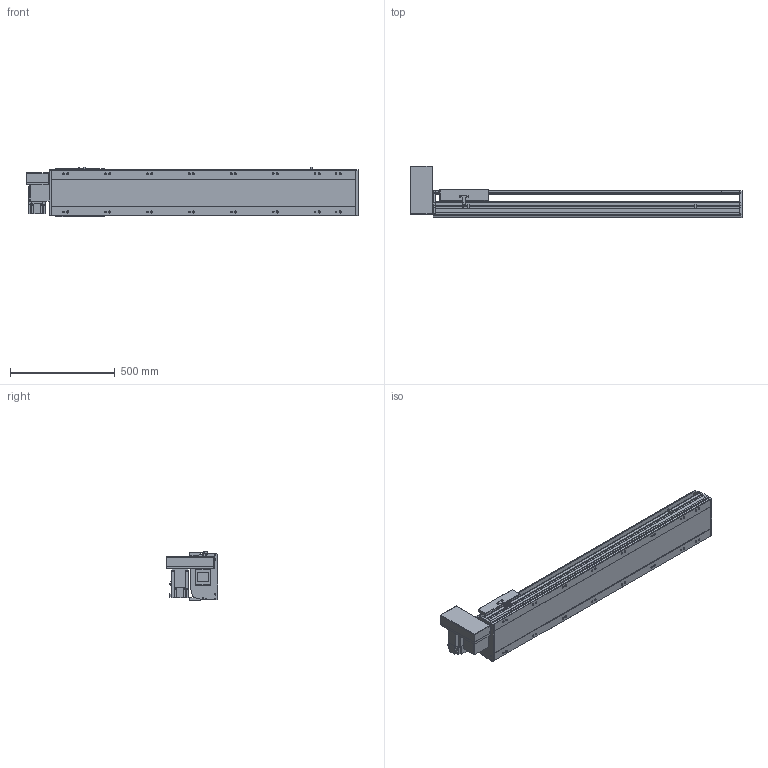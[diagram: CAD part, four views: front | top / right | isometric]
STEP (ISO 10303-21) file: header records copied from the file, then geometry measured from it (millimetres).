
FILE_DESCRIPTION(/* description */ ('STEP AP214'),/* implementation_level */ '2;1');
FILE_NAME(/* name */ 'PBS220-P40-S1100-RU-T75-C1-N(0)',/* time_stamp */ '2022-06-13T02:54:13+02:00',/* author */ ('License CC BY-ND 4.0'),/* organization */ ('CADENAS'),/* preprocessor_version */ 'ST-DEVELOPER v18.102',/* originating_system */ 'PARTsolutions',/* authorisation */ ' ');
FILE_SCHEMA (('AUTOMOTIVE_DESIGN {1 0 10303 214 3 1 1}'));
Length unit declared in the file: millimetre
Products named in the file (7): PBS220-P40-S1100-RU-T75-C1-N(0); PBS220_sensor; PBS220_plant; PBS220_sliser; T75-p1; PBS220T-RU_motors; PBS220-S1100()_body
Assembly tree (8 placements, depth 2):
  PBS220-P40-S1100-RU-T75-C1-N(0)
    PBS220_sensor  x3
    PBS220_plant
    PBS220_sliser
    T75-p1
    PBS220T-RU_motors
    PBS220-S1100()_body
Bounding box: 1584 x 247 x 238.5 mm (x, y, z)
Volume: 22802339.6 mm3; surface area: 2215470.9 mm2
Topology: 8 solids, 8 shells, 914 faces, 2396 edges, 1558 vertices
Faces by surface type: plane 598, cylinder 276, cone 40
Full cylindrical faces by diameter (mm): 2.013 x4, 4.5 x14, 4.917 x4, 6 x7, 6.647 x8, 8 x10, 8.376 x16, 8.5 x16, 10 x6, 14 x16, 38 x2, 40 x1, 70 x1
Entity records: 25629 total; most frequent: CARTESIAN_POINT 4492, DIRECTION 4455, ORIENTED_EDGE 4106, EDGE_CURVE 2053, AXIS2_PLACEMENT_3D 1555, VERTEX_POINT 1416, LINE 1345, VECTOR 1345
